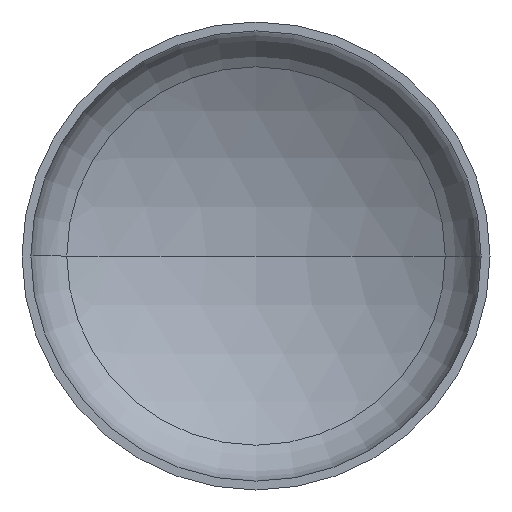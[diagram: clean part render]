
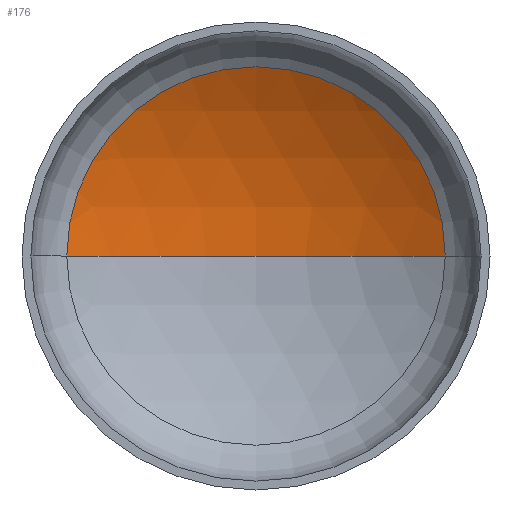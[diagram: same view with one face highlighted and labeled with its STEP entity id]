
A CAD part, front view. The second image highlights one B-rep face of the part: STEP entity #176.
In plain terms, the highlighted spherical face has radius 800 mm.
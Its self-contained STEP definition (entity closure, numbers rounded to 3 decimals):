
#4 = CARTESIAN_POINT ( 'NONE',  ( 404.341, 193.745, 0. ) ) ;
#9 = AXIS2_PLACEMENT_3D ( 'NONE', #157, #163, #368 ) ;
#12 = AXIS2_PLACEMENT_3D ( 'NONE', #225, #228, #76 ) ;
#33 = AXIS2_PLACEMENT_3D ( 'NONE', #194, #348, #173 ) ;
#39 = AXIS2_PLACEMENT_3D ( 'NONE', #189, #190, #249 ) ;
#40 = EDGE_LOOP ( 'NONE', ( #384, #117, #156 ) ) ;
#76 = DIRECTION ( 'NONE',  ( -1., 0., 0. ) ) ;
#89 = EDGE_CURVE ( 'NONE', #100, #137, #362, .T. ) ;
#100 = VERTEX_POINT ( 'NONE', #4 ) ;
#113 = CIRCLE ( 'NONE', #12, 800. ) ;
#117 = ORIENTED_EDGE ( 'NONE', *, *, #347, .T. ) ;
#119 = VERTEX_POINT ( 'NONE', #367 ) ;
#137 = VERTEX_POINT ( 'NONE', #271 ) ;
#156 = ORIENTED_EDGE ( 'NONE', *, *, #89, .T. ) ;
#157 = CARTESIAN_POINT ( 'NONE',  ( 0., -496.551, 0. ) ) ;
#163 = DIRECTION ( 'NONE',  ( 0., 0., 1. ) ) ;
#164 = FACE_OUTER_BOUND ( 'NONE', #40, .T. ) ;
#173 = DIRECTION ( 'NONE',  ( -1., 0., 0. ) ) ;
#176 = ADVANCED_FACE ( 'NONE', ( #164 ), #285, .F. ) ;
#189 = CARTESIAN_POINT ( 'NONE',  ( 0., 193.745, 0. ) ) ;
#190 = DIRECTION ( 'NONE',  ( 0., -1., 0. ) ) ;
#194 = CARTESIAN_POINT ( 'NONE',  ( 0., -496.551, 0. ) ) ;
#225 = CARTESIAN_POINT ( 'NONE',  ( 0., -496.551, 0. ) ) ;
#228 = DIRECTION ( 'NONE',  ( 0., 0., -1. ) ) ;
#249 = DIRECTION ( 'NONE',  ( 1., 0., 0. ) ) ;
#271 = CARTESIAN_POINT ( 'NONE',  ( -404.341, 193.745, 0. ) ) ;
#285 = SPHERICAL_SURFACE ( 'NONE', #33, 800. ) ;
#329 = CIRCLE ( 'NONE', #9, 800. ) ;
#347 = EDGE_CURVE ( 'NONE', #119, #100, #113, .T. ) ;
#348 = DIRECTION ( 'NONE',  ( 0., 0., -1. ) ) ;
#349 = EDGE_CURVE ( 'NONE', #119, #137, #329, .T. ) ;
#362 = CIRCLE ( 'NONE', #39, 404.341 ) ;
#367 = CARTESIAN_POINT ( 'NONE',  ( 0., 303.449, 0. ) ) ;
#368 = DIRECTION ( 'NONE',  ( 1., 0., 0. ) ) ;
#384 = ORIENTED_EDGE ( 'NONE', *, *, #349, .F. ) ;
